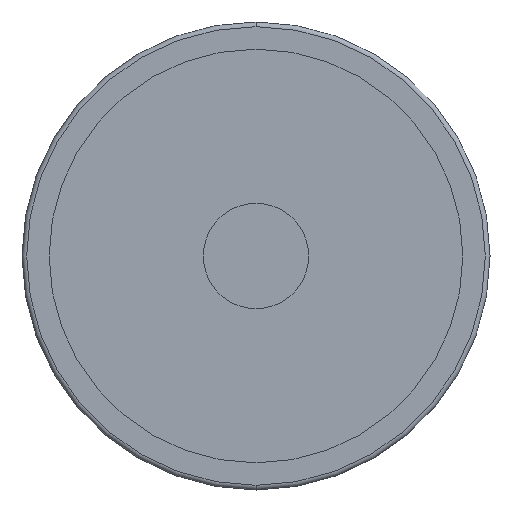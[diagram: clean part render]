
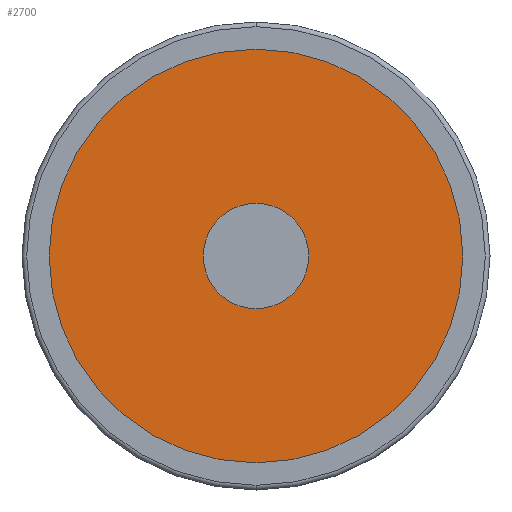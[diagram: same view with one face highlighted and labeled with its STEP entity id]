
A CAD part, front view. The second image highlights one B-rep face of the part: STEP entity #2700.
In plain terms, the highlighted planar face has unit normal (0, -1, 0).
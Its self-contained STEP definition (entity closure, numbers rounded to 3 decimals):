
#45 = DIRECTION ( 'NONE',  ( 0., -1., 0. ) ) ;
#71 = EDGE_LOOP ( 'NONE', ( #241, #128 ) ) ;
#99 = CARTESIAN_POINT ( 'NONE',  ( -10.25, 4.5, 0. ) ) ;
#128 = ORIENTED_EDGE ( 'NONE', *, *, #1265, .F. ) ;
#163 = EDGE_CURVE ( 'NONE', #1267, #2114, #569, .T. ) ;
#235 = EDGE_CURVE ( 'NONE', #1107, #1160, #1202, .T. ) ;
#241 = ORIENTED_EDGE ( 'NONE', *, *, #163, .F. ) ;
#325 = DIRECTION ( 'NONE',  ( 1., 0., 0. ) ) ;
#362 = PLANE ( 'NONE',  #1407 ) ;
#426 = FACE_BOUND ( 'NONE', #71, .T. ) ;
#569 = CIRCLE ( 'NONE', #976, 10.25 ) ;
#606 = CARTESIAN_POINT ( 'NONE',  ( 0., 4.5, 0. ) ) ;
#775 = DIRECTION ( 'NONE',  ( 0., -1., 0. ) ) ;
#796 = CARTESIAN_POINT ( 'NONE',  ( -44.3, 4.5, 0. ) ) ;
#833 = DIRECTION ( 'NONE',  ( 1., 0., 0. ) ) ;
#976 = AXIS2_PLACEMENT_3D ( 'NONE', #606, #1083, #2070 ) ;
#1016 = CIRCLE ( 'NONE', #3215, 10.25 ) ;
#1051 = CARTESIAN_POINT ( 'NONE',  ( 10.25, 4.5, 0. ) ) ;
#1083 = DIRECTION ( 'NONE',  ( 0., -1., 0. ) ) ;
#1107 = VERTEX_POINT ( 'NONE', #2245 ) ;
#1130 = AXIS2_PLACEMENT_3D ( 'NONE', #2022, #775, #325 ) ;
#1138 = FACE_OUTER_BOUND ( 'NONE', #1522, .T. ) ;
#1160 = VERTEX_POINT ( 'NONE', #796 ) ;
#1202 = CIRCLE ( 'NONE', #2663, 44.3 ) ;
#1251 = CARTESIAN_POINT ( 'NONE',  ( 0., 4.5, 0. ) ) ;
#1265 = EDGE_CURVE ( 'NONE', #2114, #1267, #1016, .T. ) ;
#1267 = VERTEX_POINT ( 'NONE', #1051 ) ;
#1407 = AXIS2_PLACEMENT_3D ( 'NONE', #3094, #2173, #833 ) ;
#1522 = EDGE_LOOP ( 'NONE', ( #2661, #1853 ) ) ;
#1797 = DIRECTION ( 'NONE',  ( 0., -1., 0. ) ) ;
#1814 = CIRCLE ( 'NONE', #1130, 44.3 ) ;
#1853 = ORIENTED_EDGE ( 'NONE', *, *, #235, .T. ) ;
#2022 = CARTESIAN_POINT ( 'NONE',  ( 0., 4.5, 0. ) ) ;
#2069 = EDGE_CURVE ( 'NONE', #1160, #1107, #1814, .T. ) ;
#2070 = DIRECTION ( 'NONE',  ( 1., 0., 0. ) ) ;
#2114 = VERTEX_POINT ( 'NONE', #99 ) ;
#2136 = DIRECTION ( 'NONE',  ( 1., 0., 0. ) ) ;
#2173 = DIRECTION ( 'NONE',  ( 0., -1., 0. ) ) ;
#2245 = CARTESIAN_POINT ( 'NONE',  ( 44.3, 4.5, 0. ) ) ;
#2261 = CARTESIAN_POINT ( 'NONE',  ( 0., 4.5, 0. ) ) ;
#2525 = DIRECTION ( 'NONE',  ( 1., 0., 0. ) ) ;
#2661 = ORIENTED_EDGE ( 'NONE', *, *, #2069, .T. ) ;
#2663 = AXIS2_PLACEMENT_3D ( 'NONE', #1251, #45, #2136 ) ;
#2700 = ADVANCED_FACE ( 'NONE', ( #1138, #426 ), #362, .T. ) ;
#3094 = CARTESIAN_POINT ( 'NONE',  ( -44.3, 4.5, 0. ) ) ;
#3215 = AXIS2_PLACEMENT_3D ( 'NONE', #2261, #1797, #2525 ) ;
